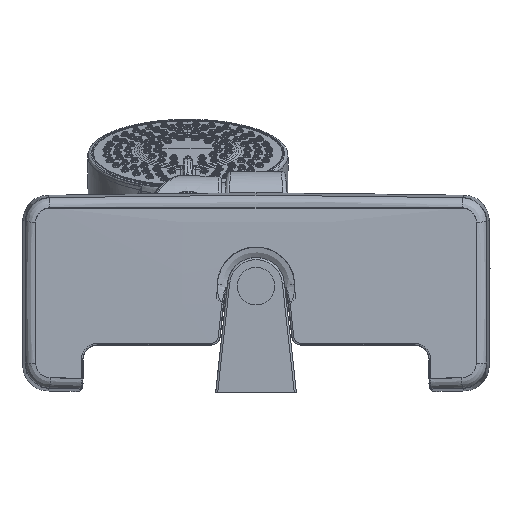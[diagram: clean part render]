
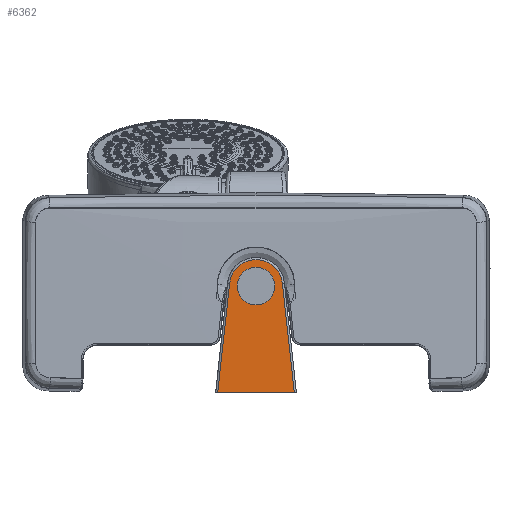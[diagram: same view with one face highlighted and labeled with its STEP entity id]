
A CAD part, front view. The second image highlights one B-rep face of the part: STEP entity #6362.
In plain terms, the highlighted planar face has unit normal (0, -1, 0).
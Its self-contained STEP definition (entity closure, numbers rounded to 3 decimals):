
#2482 = DIRECTION ( 'NONE',  ( 0., 1., 0. ) ) ;
#5949 = EDGE_CURVE ( 'NONE', #140973, #144551, #21518, .T. ) ;
#6362 = ADVANCED_FACE ( 'NONE', ( #134364 ), #43514, .F. ) ;
#17120 = CARTESIAN_POINT ( 'NONE',  ( 0., -350.5, 50.5 ) ) ;
#21518 = CIRCLE ( 'NONE', #158910, 12.576 ) ;
#26610 = LINE ( 'NONE', #87390, #151998 ) ;
#29672 = CARTESIAN_POINT ( 'NONE',  ( -18.161, -350.5, -0.02 ) ) ;
#31199 = EDGE_CURVE ( 'NONE', #144551, #46274, #63052, .T. ) ;
#40631 = EDGE_CURVE ( 'NONE', #85403, #46274, #26610, .T. ) ;
#43514 = PLANE ( 'NONE',  #68364 ) ;
#46274 = VERTEX_POINT ( 'NONE', #29672 ) ;
#63052 = LINE ( 'NONE', #112452, #88109 ) ;
#68358 = CARTESIAN_POINT ( 'NONE',  ( 12.502, -350.5, 51.864 ) ) ;
#68364 = AXIS2_PLACEMENT_3D ( 'NONE', #17120, #2482, #69816 ) ;
#69816 = DIRECTION ( 'NONE',  ( 1., 0., 0. ) ) ;
#85403 = VERTEX_POINT ( 'NONE', #99970 ) ;
#87390 = CARTESIAN_POINT ( 'NONE',  ( -19.167, -350.5, -0.02 ) ) ;
#88109 = VECTOR ( 'NONE', #128081, 1000. ) ;
#90860 = DIRECTION ( 'NONE',  ( -1., 0., 0. ) ) ;
#91687 = VECTOR ( 'NONE', #170660, 1000. ) ;
#95572 = ORIENTED_EDGE ( 'NONE', *, *, #5949, .T. ) ;
#99970 = CARTESIAN_POINT ( 'NONE',  ( 18.161, -350.5, -0.02 ) ) ;
#112397 = CARTESIAN_POINT ( 'NONE',  ( -12.502, -350.5, 51.864 ) ) ;
#112452 = CARTESIAN_POINT ( 'NONE',  ( -18.173, -350.5, -0.128 ) ) ;
#123022 = LINE ( 'NONE', #170084, #91687 ) ;
#128081 = DIRECTION ( 'NONE',  ( -0.108, 0., -0.994 ) ) ;
#133699 = CARTESIAN_POINT ( 'NONE',  ( 0., -350.5, 50.5 ) ) ;
#134364 = FACE_OUTER_BOUND ( 'NONE', #142070, .T. ) ;
#140973 = VERTEX_POINT ( 'NONE', #68358 ) ;
#142070 = EDGE_LOOP ( 'NONE', ( #95572, #150752, #158790, #162500 ) ) ;
#143071 = EDGE_CURVE ( 'NONE', #85403, #140973, #123022, .T. ) ;
#144551 = VERTEX_POINT ( 'NONE', #112397 ) ;
#150752 = ORIENTED_EDGE ( 'NONE', *, *, #31199, .T. ) ;
#151998 = VECTOR ( 'NONE', #90860, 1000. ) ;
#158790 = ORIENTED_EDGE ( 'NONE', *, *, #40631, .F. ) ;
#158850 = DIRECTION ( 'NONE',  ( 1., 0., 0. ) ) ;
#158910 = AXIS2_PLACEMENT_3D ( 'NONE', #133699, #160571, #158850 ) ;
#160571 = DIRECTION ( 'NONE',  ( 0., -1., 0. ) ) ;
#162500 = ORIENTED_EDGE ( 'NONE', *, *, #143071, .T. ) ;
#170084 = CARTESIAN_POINT ( 'NONE',  ( 12.502, -350.5, 51.864 ) ) ;
#170660 = DIRECTION ( 'NONE',  ( -0.108, 0., 0.994 ) ) ;
